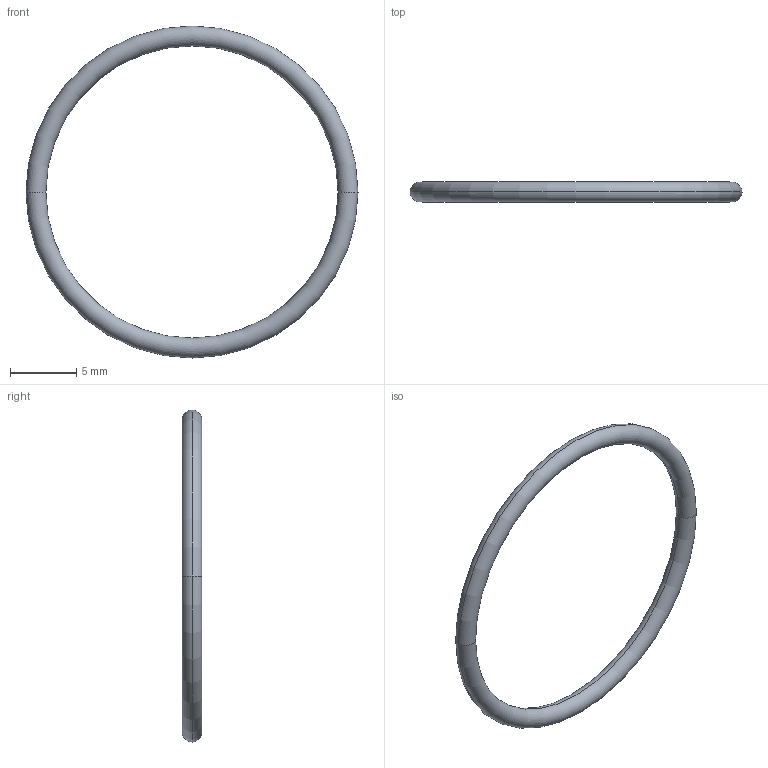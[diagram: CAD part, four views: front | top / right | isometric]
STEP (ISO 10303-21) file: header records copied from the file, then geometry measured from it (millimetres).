
FILE_DESCRIPTION((''),'2;1');
FILE_NAME('U1961','2013-02-20T',('jfgibert'),(''),'PRO/ENGINEER BY PARAMETRIC TECHNOLOGY CORPORATION, 2011250','PRO/ENGINEER BY PARAMETRIC TECHNOLOGY CORPORATION, 2011250','');
FILE_SCHEMA(('CONFIG_CONTROL_DESIGN'));
Length unit declared in the file: millimetre
Products named in the file (1): U1961
Bounding box: 25 x 1.5 x 25 mm (x, y, z)
Volume: 130.5 mm3; surface area: 347.9 mm2
Topology: 1 solids, 1 shells, 4 faces, 8 edges, 4 vertices
Faces by surface type: torus 4
Entity records: 150 total; most frequent: DIRECTION 24, CARTESIAN_POINT 16, ORIENTED_EDGE 16, AXIS2_PLACEMENT_3D 12, CIRCLE 8, EDGE_CURVE 8, VERTEX_POINT 4, TOROIDAL_SURFACE 4
